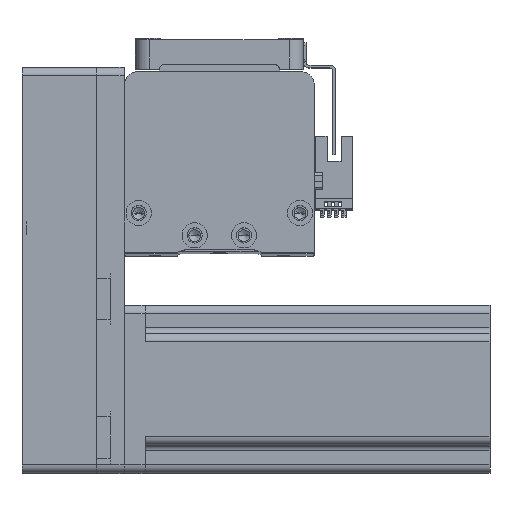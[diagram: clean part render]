
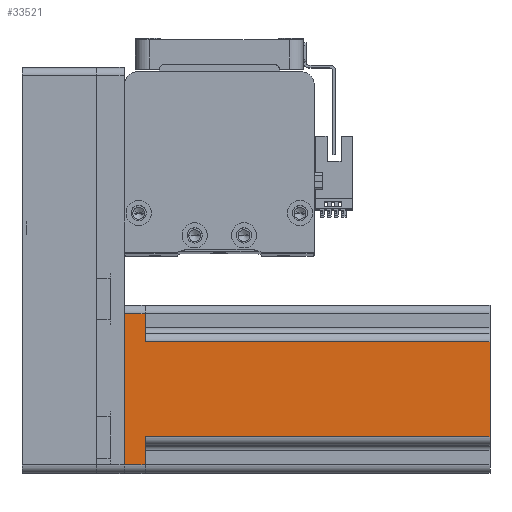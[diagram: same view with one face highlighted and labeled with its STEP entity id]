
A CAD part, top view. The second image highlights one B-rep face of the part: STEP entity #33521.
In plain terms, the highlighted planar face has unit normal (0, 0, 1) as drawn and (0, -1, 0) by its records, which use the part's own axes.
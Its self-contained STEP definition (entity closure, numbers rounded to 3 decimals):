
#219 = EDGE_CURVE ( 'NONE', #30559, #3822, #42112, .T. ) ;
#1178 = ORIENTED_EDGE ( 'NONE', *, *, #32551, .T. ) ;
#1739 = CARTESIAN_POINT ( 'NONE',  ( 27., -30., 130.7 ) ) ;
#2013 = VERTEX_POINT ( 'NONE', #15477 ) ;
#2234 = LINE ( 'NONE', #27294, #37421 ) ;
#3748 = ORIENTED_EDGE ( 'NONE', *, *, #35102, .T. ) ;
#3822 = VERTEX_POINT ( 'NONE', #33264 ) ;
#4246 = VECTOR ( 'NONE', #5160, 1000. ) ;
#4747 = CARTESIAN_POINT ( 'NONE',  ( 30., -30., 0. ) ) ;
#5160 = DIRECTION ( 'NONE',  ( 0., 0., 1. ) ) ;
#5709 = CARTESIAN_POINT ( 'NONE',  ( -27., -30., 0. ) ) ;
#6835 = DIRECTION ( 'NONE',  ( -1., 0., 0. ) ) ;
#6854 = EDGE_CURVE ( 'NONE', #32598, #2013, #22346, .T. ) ;
#8166 = EDGE_CURVE ( 'NONE', #11905, #32598, #13618, .T. ) ;
#8231 = CARTESIAN_POINT ( 'NONE',  ( 17., -30., 130.7 ) ) ;
#8260 = CARTESIAN_POINT ( 'NONE',  ( 30., -30., 130.7 ) ) ;
#8416 = ORIENTED_EDGE ( 'NONE', *, *, #219, .T. ) ;
#8467 = ORIENTED_EDGE ( 'NONE', *, *, #41724, .F. ) ;
#11089 = DIRECTION ( 'NONE',  ( 0., 1., 0. ) ) ;
#11905 = VERTEX_POINT ( 'NONE', #5709 ) ;
#12554 = VECTOR ( 'NONE', #42148, 1000. ) ;
#13340 = DIRECTION ( 'NONE',  ( 0., 0., -1. ) ) ;
#13618 = LINE ( 'NONE', #4747, #12554 ) ;
#13799 = CARTESIAN_POINT ( 'NONE',  ( 27., -30., 0. ) ) ;
#14880 = VERTEX_POINT ( 'NONE', #16015 ) ;
#15000 = LINE ( 'NONE', #30578, #32124 ) ;
#15412 = CARTESIAN_POINT ( 'NONE',  ( -17., -30., 130.7 ) ) ;
#15477 = CARTESIAN_POINT ( 'NONE',  ( 27., -30., 7.5 ) ) ;
#16015 = CARTESIAN_POINT ( 'NONE',  ( -17., -30., 7.5 ) ) ;
#16036 = EDGE_CURVE ( 'NONE', #2013, #30559, #2234, .T. ) ;
#16918 = LINE ( 'NONE', #8260, #24952 ) ;
#19552 = LINE ( 'NONE', #32590, #27634 ) ;
#19591 = ORIENTED_EDGE ( 'NONE', *, *, #8166, .T. ) ;
#19738 = CARTESIAN_POINT ( 'NONE',  ( -27., -30., 7.5 ) ) ;
#21385 = ORIENTED_EDGE ( 'NONE', *, *, #6854, .T. ) ;
#21480 = DIRECTION ( 'NONE',  ( 0., 0., 1. ) ) ;
#21729 = CARTESIAN_POINT ( 'NONE',  ( 17., -30., 7.5 ) ) ;
#22346 = LINE ( 'NONE', #1739, #4246 ) ;
#23332 = VERTEX_POINT ( 'NONE', #19738 ) ;
#24952 = VECTOR ( 'NONE', #28711, 1000. ) ;
#25740 = AXIS2_PLACEMENT_3D ( 'NONE', #31552, #11089, #34978 ) ;
#27294 = CARTESIAN_POINT ( 'NONE',  ( 20., -30., 7.5 ) ) ;
#27634 = VECTOR ( 'NONE', #29168, 1000. ) ;
#27931 = ORIENTED_EDGE ( 'NONE', *, *, #16036, .T. ) ;
#28711 = DIRECTION ( 'NONE',  ( 1., 0., 0. ) ) ;
#29168 = DIRECTION ( 'NONE',  ( 1., 0., 0. ) ) ;
#29931 = EDGE_LOOP ( 'NONE', ( #44148, #1178, #8467, #3748, #19591, #21385, #27931, #8416 ) ) ;
#30559 = VERTEX_POINT ( 'NONE', #21729 ) ;
#30578 = CARTESIAN_POINT ( 'NONE',  ( -17., -30., 130.7 ) ) ;
#31552 = CARTESIAN_POINT ( 'NONE',  ( 30., -30., 130.7 ) ) ;
#31777 = VECTOR ( 'NONE', #13340, 1000. ) ;
#32124 = VECTOR ( 'NONE', #33985, 1000. ) ;
#32551 = EDGE_CURVE ( 'NONE', #38826, #14880, #15000, .T. ) ;
#32590 = CARTESIAN_POINT ( 'NONE',  ( -20., -30., 7.5 ) ) ;
#32598 = VERTEX_POINT ( 'NONE', #13799 ) ;
#33065 = VECTOR ( 'NONE', #21480, 1000. ) ;
#33264 = CARTESIAN_POINT ( 'NONE',  ( 17., -30., 130.7 ) ) ;
#33521 = ADVANCED_FACE ( 'NONE', ( #36263 ), #34832, .F. ) ;
#33807 = CARTESIAN_POINT ( 'NONE',  ( -27., -30., 130.7 ) ) ;
#33985 = DIRECTION ( 'NONE',  ( 0., 0., -1. ) ) ;
#34832 = PLANE ( 'NONE',  #25740 ) ;
#34978 = DIRECTION ( 'NONE',  ( -1., 0., 0. ) ) ;
#35102 = EDGE_CURVE ( 'NONE', #23332, #11905, #40806, .T. ) ;
#36263 = FACE_OUTER_BOUND ( 'NONE', #29931, .T. ) ;
#37421 = VECTOR ( 'NONE', #6835, 1000. ) ;
#38826 = VERTEX_POINT ( 'NONE', #15412 ) ;
#40806 = LINE ( 'NONE', #33807, #31777 ) ;
#41655 = EDGE_CURVE ( 'NONE', #38826, #3822, #16918, .T. ) ;
#41724 = EDGE_CURVE ( 'NONE', #23332, #14880, #19552, .T. ) ;
#42112 = LINE ( 'NONE', #8231, #33065 ) ;
#42148 = DIRECTION ( 'NONE',  ( 1., 0., 0. ) ) ;
#44148 = ORIENTED_EDGE ( 'NONE', *, *, #41655, .F. ) ;
